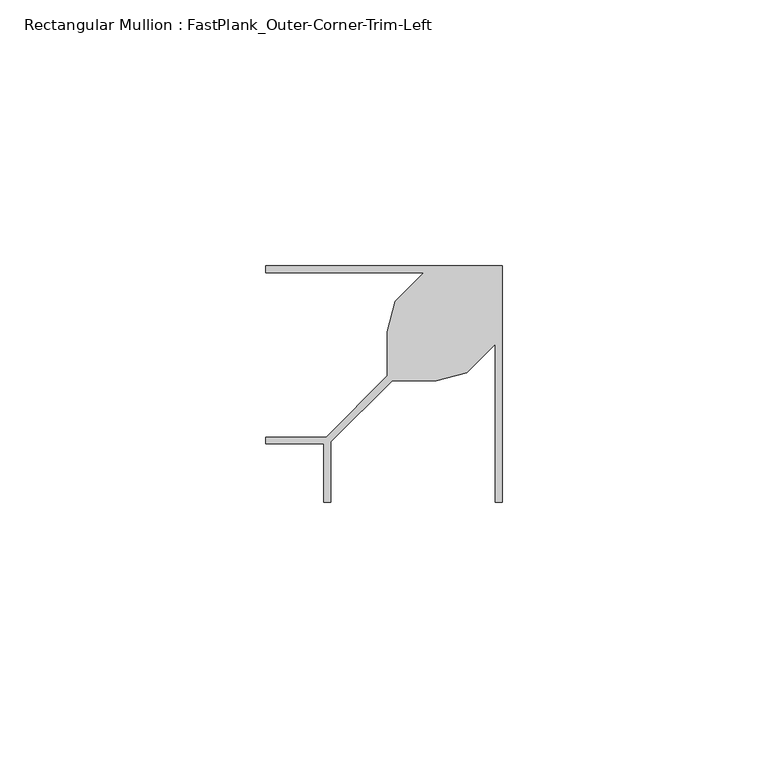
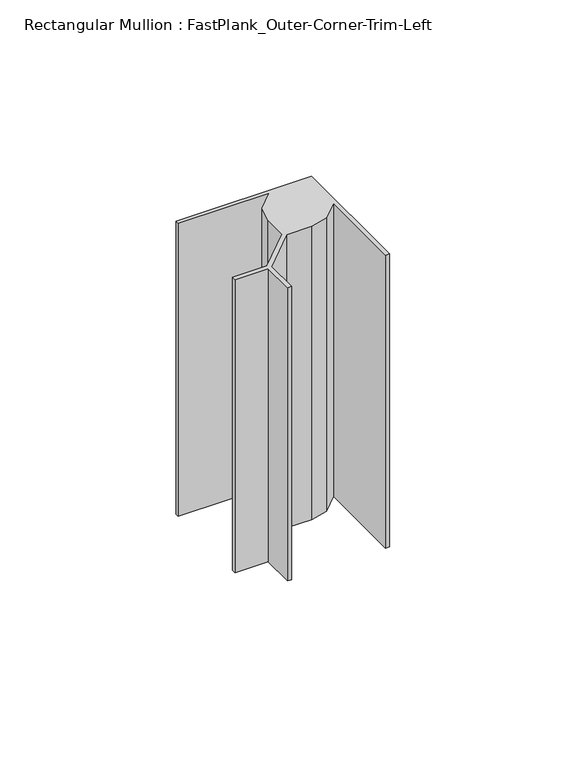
"""IFC4 building model written with IfcOpenShell, lengths in millimetres: member geometry, Rectangular Mullion : FastPlank_Outer-Corner-Trim-Left."""

import ifcopenshell
import ifcopenshell.guid

model = None  # the IFC model being written
_history = None  # IfcOwnerHistory: only IFC2X3 demands one
_inside = {}  # id of a spatial element -> (the spatial element, [elements in it])
_under = {}  # id of a project, library or spatial element -> (it, [spatial elements below it])
_declared = {}  # id of a project -> (the project, [libraries it declares])
_typed = {}  # id of a type object -> (the type object, [elements of that type])
_made_of = {}  # id of a material, layer set ... -> (it, [elements and type objects made of it])


def new_model(schema):
    """Start an empty IFC model of exactly this schema.

    Asked for "IFC4X3", IfcOpenShell would pick the latest addendum, in which some entities
    have other attributes; the version numbers below select the first issue.
    IFC2X3 requires an IfcOwnerHistory on every rooted entity: one is made here for all.
    """
    global model, _history
    if schema == "IFC4X3":
        model = ifcopenshell.file(schema_version=(4, 3, 0, 0))
    else:
        model = ifcopenshell.file(schema=schema)
    _inside.clear()
    _under.clear()
    _declared.clear()
    _typed.clear()
    _made_of.clear()
    _history = None
    if model.schema == "IFC2X3":
        org = make("IfcOrganization", Name="unknown")
        user = make(
            "IfcPersonAndOrganization",
            ThePerson=make("IfcPerson", FamilyName="unknown"),
            TheOrganization=org,
        )
        app = make(
            "IfcApplication",
            ApplicationDeveloper=org,
            Version="unknown",
            ApplicationFullName="unknown",
            ApplicationIdentifier="unknown",
        )
        _history = make(
            "IfcOwnerHistory",
            OwningUser=user,
            OwningApplication=app,
            ChangeAction="ADDED",
            CreationDate=0,
        )
    return model


def make(cls, **values):
    """One entity of the class cls with the attributes given. An attribute that is None is left unset."""
    return model.create_entity(
        cls, **{name: value for name, value in values.items() if value is not None}
    )


def rooted(cls, **values):
    """An entity with a GlobalId (a new one), such as an element, a storey or a relation."""
    return make(cls, GlobalId=ifcopenshell.guid.new(), OwnerHistory=_history, **values)


def si_unit(unit_type, name, prefix=None):
    """IfcSIUnit, for example si_unit("LENGTHUNIT", "METRE", prefix="MILLI")."""
    return make("IfcSIUnit", UnitType=unit_type, Prefix=prefix, Name=name)


def assignment(units):
    """IfcUnitAssignment: the units of a project."""
    return None if units is None else make("IfcUnitAssignment", Units=units)


def point(xyz):
    """IfcCartesianPoint."""
    return None if xyz is None else make("IfcCartesianPoint", Coordinates=xyz)


def direction(xyz):
    """IfcDirection."""
    return None if xyz is None else make("IfcDirection", DirectionRatios=xyz)


def frame(location, z_axis=None, x_axis=None):
    """IfcAxis2Placement3D, a coordinate frame: its origin and axes. An axis left out is left unset."""
    return make(
        "IfcAxis2Placement3D",
        Location=point(location),
        Axis=direction(z_axis),
        RefDirection=direction(x_axis),
    )


def origin():
    """The frame at (0, 0, 0) with its axes left unset."""
    return frame((0.0, 0.0, 0.0))


def place(relative_to, where):
    """IfcLocalPlacement: puts the frame where relative to a parent placement (None: the world)."""
    return make(
        "IfcLocalPlacement", PlacementRelTo=relative_to, RelativePlacement=where
    )


def context(
    kind, dimensions, precision=None, world=None, true_north=None, identifier=None
):
    """IfcGeometricRepresentationContext, for example the 3D "Model" context."""
    return make(
        "IfcGeometricRepresentationContext",
        ContextIdentifier=identifier,
        ContextType=kind,
        CoordinateSpaceDimension=dimensions,
        Precision=precision,
        WorldCoordinateSystem=world,
        TrueNorth=true_north,
    )


def project(units=None, contexts=None):
    """IfcProject with its units and contexts."""
    return rooted(
        "IfcProject",
        Name="project",
        RepresentationContexts=contexts,
        UnitsInContext=assignment(units),
    )


def spatial(cls, under=None, at=None, **own):
    """A site, building, storey or space (cls), placed at a placement, below another one or the project."""
    s = rooted(cls, ObjectPlacement=at, **own)
    if under is not None:
        _under.setdefault(under.id(), (under, []))[1].append(s)
    return s


def polyline(points):
    """IfcPolyline through the points."""
    return make("IfcPolyline", Points=[point(p) for p in points])


def outline(outer, holes=None, kind="AREA"):
    """IfcArbitraryClosedProfileDef: a profile drawn as a closed curve; with holes, ...WithVoids."""
    if holes is None:
        return make("IfcArbitraryClosedProfileDef", ProfileType=kind, OuterCurve=outer)
    return make(
        "IfcArbitraryProfileDefWithVoids",
        ProfileType=kind,
        OuterCurve=outer,
        InnerCurves=holes,
    )


def extrude(swept, where, along, depth):
    """IfcExtrudedAreaSolid: the profile swept, set in the frame where, extruded along a direction by depth."""
    return make(
        "IfcExtrudedAreaSolid",
        SweptArea=swept,
        Position=where,
        ExtrudedDirection=direction(along),
        Depth=depth,
    )


def shape(context_of_items, identifier, shape_type, items):
    """IfcShapeRepresentation: the items that make up one representation, for example the "Body"."""
    return make(
        "IfcShapeRepresentation",
        ContextOfItems=context_of_items,
        RepresentationIdentifier=identifier,
        RepresentationType=shape_type,
        Items=items,
    )


def source(mapping_origin, context_of_items, identifier, shape_type, items):
    """IfcRepresentationMap: a shape defined once, which mapped items show again and again."""
    return make(
        "IfcRepresentationMap",
        MappingOrigin=mapping_origin,
        MappedRepresentation=shape(context_of_items, identifier, shape_type, items),
    )


def transform(
    local_origin,
    x_axis=None,
    y_axis=None,
    z_axis=None,
    scale=None,
    scale2=None,
    scale3=None,
    uniform=True,
):
    """IfcCartesianTransformationOperator3D, or its non-uniform kind. x_axis, y_axis, z_axis: its Axis1, 2, 3."""
    if uniform:
        return make(
            "IfcCartesianTransformationOperator3D",
            Axis1=direction(x_axis),
            Axis2=direction(y_axis),
            LocalOrigin=point(local_origin),
            Scale=scale,
            Axis3=direction(z_axis),
        )
    return make(
        "IfcCartesianTransformationOperator3DnonUniform",
        Axis1=direction(x_axis),
        Axis2=direction(y_axis),
        LocalOrigin=point(local_origin),
        Scale=scale,
        Axis3=direction(z_axis),
        Scale2=scale2,
        Scale3=scale3,
    )


def mapped(mapping_source, mapping_target):
    """IfcMappedItem: shows the shape of a source again, moved by a transform."""
    return make(
        "IfcMappedItem", MappingSource=mapping_source, MappingTarget=mapping_target
    )


def made_of(thing, what):
    """Note that an element or type object is made of a material, layer set ...; save() writes the relation."""
    if what is not None:
        _made_of.setdefault(what.id(), (what, []))[1].append(thing)
    return thing


def element(
    cls,
    number,
    at=None,
    inside=None,
    cuts=None,
    type_object=None,
    material=None,
    context=None,
    identifier="Body",
    shape_type=None,
    held_by="IfcProductDefinitionShape",
    body=None,
    shapes=None,
    **own,
):
    """One element of the class cls, such as IfcWall. Its Tag is "e" and its number.

    at: its placement. inside: the storey or other place that contains it. cuts: it is an
    opening in that element (IfcRelVoidsElement). A single representation is given by context,
    identifier, shape_type and body (its items); several are given by shapes. held_by: the class
    of the entity that holds the representations. save() writes the other relations.
    """
    e = rooted(cls, Tag="e%d" % number, ObjectPlacement=at, **own)
    if body is not None:
        shapes = [shape(context, identifier, shape_type, body)]
    if shapes is not None:
        e.Representation = make(held_by, Representations=shapes)
    if inside is not None:
        _inside.setdefault(inside.id(), (inside, []))[1].append(e)
    if cuts is not None:
        rooted(
            "IfcRelVoidsElement", RelatingBuildingElement=cuts, RelatedOpeningElement=e
        )
    if type_object is not None:
        _typed.setdefault(type_object.id(), (type_object, []))[1].append(e)
    return made_of(e, material)


def aggregate(whole, parts):
    """IfcRelAggregates: a whole, such as a stair, and the parts it consists of."""
    return rooted("IfcRelAggregates", RelatingObject=whole, RelatedObjects=parts)


def save(model, path):
    """Write the relations noted so far, then the file.

    IfcRelAggregates (storeys below a building ...), IfcRelContainedInSpatialStructure (elements
    in a storey), IfcRelDefinesByType, IfcRelAssociatesMaterial and IfcRelDeclares: one each for
    every whole, place, type object, material and project.
    """
    for whole, parts in _under.values():
        aggregate(whole, parts)
    for where, things in _inside.values():
        rooted(
            "IfcRelContainedInSpatialStructure",
            RelatedElements=things,
            RelatingStructure=where,
        )
    for kind, things in _typed.values():
        rooted("IfcRelDefinesByType", RelatedObjects=things, RelatingType=kind)
    for what, things in _made_of.values():
        rooted("IfcRelAssociatesMaterial", RelatedObjects=things, RelatingMaterial=what)
    for by, libraries in _declared.values():
        rooted("IfcRelDeclares", RelatingContext=by, RelatedDefinitions=libraries)
    model.write(path)


def rectangular_mullion_fastplank_outer_corner_trim_left_a135b824(model_context):
    return source(origin(), model_context, "Body", "SweptSolid", [
        extrude(outline(polyline([(0.0, -22.7926044), (-1.2999974, -22.7926044), (-1.2999974, 6.9388362), (-6.6744694, 1.5643642), (-12.417962, 0.0254), (-20.7035048, 0.0254), (-32.1999356, -11.4710308), (-32.1999356, -22.7926044), (-33.499933, -22.7926044), (-33.499933, -11.8517912), (-44.4407461, -11.8517912), (-44.4407461, -10.5517938), (-33.1191726, -10.5517938), (-21.6227418, 0.944637), (-21.6227418, 9.2301797), (-20.0837776, 14.9736723), (-14.7093055, 20.3481444), (-44.4407461, 20.3481444), (-44.4407461, 21.6481418), (0.0, 21.6481418), (0.0, -22.7926044)])), frame((0.0, 0.0, -101.6), z_axis=(0.0, 0.0, 1.0), x_axis=(1.0, 0.0, 0.0)), (0.0, 0.0, 1.0), 101.6),
    ])


if __name__ == "__main__":
    model = new_model("IFC4")
    model_context = context("Model", 3, world=origin())
    ifc_project = project(units=[si_unit("LENGTHUNIT", "METRE", prefix="MILLI")], contexts=[model_context])
    site = spatial("IfcSite", under=ifc_project)
    building = spatial("IfcBuilding", under=site)
    placement = place(None, origin())
    rectangular_mullion_fastplank_outer_corner_trim_left_shape = rectangular_mullion_fastplank_outer_corner_trim_left_a135b824(model_context)
    element("IfcMember", 1, ObjectType="Rectangular Mullion : FastPlank_Outer-Corner-Trim-Left", at=placement, inside=building, context=model_context, shape_type="MappedRepresentation", body=[
        mapped(rectangular_mullion_fastplank_outer_corner_trim_left_shape, transform((0.0, 0.0, 0.0), x_axis=(1.0, 0.0, 0.0), y_axis=(0.0, 1.0, 0.0), z_axis=(0.0, 0.0, 1.0))),
    ])
    save(model, "model.ifc")
